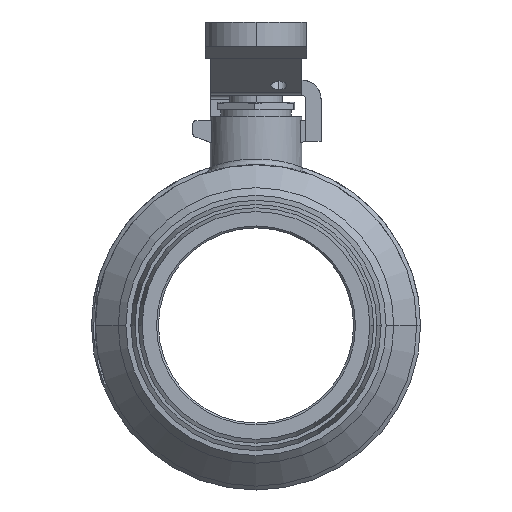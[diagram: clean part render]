
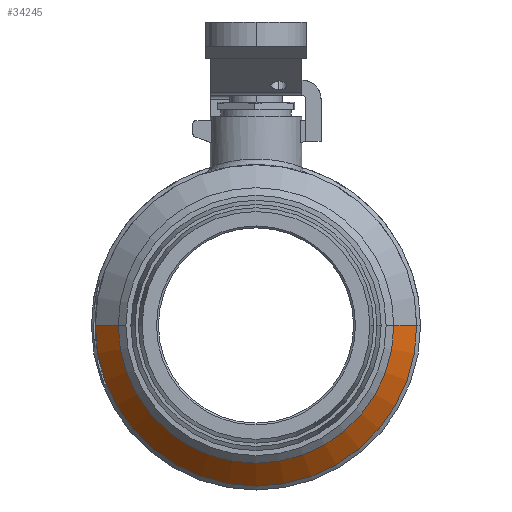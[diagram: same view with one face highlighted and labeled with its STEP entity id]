
A CAD part, left-side view. The second image highlights one B-rep face of the part: STEP entity #34245.
In plain terms, the highlighted conical face has half-angle 45 degrees and reference radius 42 mm.
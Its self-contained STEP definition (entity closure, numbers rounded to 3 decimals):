
#5087 = CYLINDRICAL_SURFACE('',#5088,42.);
#5088 = AXIS2_PLACEMENT_3D('',#5089,#5090,#5091);
#5089 = CARTESIAN_POINT('',(-107.5,0.,0.));
#5090 = DIRECTION('',(-1.,0.,0.));
#5091 = DIRECTION('',(-0.,-1.,0.));
#5146 = VERTEX_POINT('',#5147);
#5147 = CARTESIAN_POINT('',(-26.5,-36.,0.));
#5148 = VERTEX_POINT('',#5149);
#5149 = CARTESIAN_POINT('',(-26.5,36.,
    0.));
#5157 = CONICAL_SURFACE('',#5158,42.,0.785);
#5158 = AXIS2_PLACEMENT_3D('',#5159,#5160,#5161);
#5159 = CARTESIAN_POINT('',(-20.5,0.,0.));
#5160 = DIRECTION('',(1.,0.,0.));
#5161 = DIRECTION('',(-0.,1.,0.));
#5181 = EDGE_CURVE('',#5146,#5182,#5184,.T.);
#5182 = VERTEX_POINT('',#5183);
#5183 = CARTESIAN_POINT('',(-20.5,-42.,0.));
#5184 = SURFACE_CURVE('',#5185,(#5189,#5196),.PCURVE_S1.);
#5185 = LINE('',#5186,#5187);
#5186 = CARTESIAN_POINT('',(-20.5,-42.,0.));
#5187 = VECTOR('',#5188,1.);
#5188 = DIRECTION('',(0.707,-0.707,0.
    ));
#5189 = PCURVE('',#5157,#5190);
#5190 = DEFINITIONAL_REPRESENTATION('',(#5191),#5195);
#5191 = LINE('',#5192,#5193);
#5192 = CARTESIAN_POINT('',(3.142,0.));
#5193 = VECTOR('',#5194,1.);
#5194 = DIRECTION('',(0.,1.));
#5195 = ( GEOMETRIC_REPRESENTATION_CONTEXT(2) 
PARAMETRIC_REPRESENTATION_CONTEXT() REPRESENTATION_CONTEXT('2D SPACE',''
  ) );
#5196 = PCURVE('',#5197,#5202);
#5197 = CONICAL_SURFACE('',#5198,42.,0.785);
#5198 = AXIS2_PLACEMENT_3D('',#5199,#5200,#5201);
#5199 = CARTESIAN_POINT('',(-20.5,0.,0.));
#5200 = DIRECTION('',(1.,0.,0.));
#5201 = DIRECTION('',(-0.,1.,0.));
#5202 = DEFINITIONAL_REPRESENTATION('',(#5203),#5207);
#5203 = LINE('',#5204,#5205);
#5204 = CARTESIAN_POINT('',(3.142,0.));
#5205 = VECTOR('',#5206,1.);
#5206 = DIRECTION('',(0.,1.));
#5207 = ( GEOMETRIC_REPRESENTATION_CONTEXT(2) 
PARAMETRIC_REPRESENTATION_CONTEXT() REPRESENTATION_CONTEXT('2D SPACE',''
  ) );
#5210 = VERTEX_POINT('',#5211);
#5211 = CARTESIAN_POINT('',(-20.5,42.,
    0.));
#5233 = EDGE_CURVE('',#5148,#5210,#5234,.T.);
#5234 = SURFACE_CURVE('',#5235,(#5239,#5246),.PCURVE_S1.);
#5235 = LINE('',#5236,#5237);
#5236 = CARTESIAN_POINT('',(-20.5,42.,
    0.));
#5237 = VECTOR('',#5238,1.);
#5238 = DIRECTION('',(0.707,0.707,0.)
  );
#5239 = PCURVE('',#5157,#5240);
#5240 = DEFINITIONAL_REPRESENTATION('',(#5241),#5245);
#5241 = LINE('',#5242,#5243);
#5242 = CARTESIAN_POINT('',(0.,0.));
#5243 = VECTOR('',#5244,1.);
#5244 = DIRECTION('',(0.,1.));
#5245 = ( GEOMETRIC_REPRESENTATION_CONTEXT(2) 
PARAMETRIC_REPRESENTATION_CONTEXT() REPRESENTATION_CONTEXT('2D SPACE',''
  ) );
#5246 = PCURVE('',#5197,#5247);
#5247 = DEFINITIONAL_REPRESENTATION('',(#5248),#5252);
#5248 = LINE('',#5249,#5250);
#5249 = CARTESIAN_POINT('',(6.283,0.));
#5250 = VECTOR('',#5251,1.);
#5251 = DIRECTION('',(0.,1.));
#5252 = ( GEOMETRIC_REPRESENTATION_CONTEXT(2) 
PARAMETRIC_REPRESENTATION_CONTEXT() REPRESENTATION_CONTEXT('2D SPACE',''
  ) );
#5274 = CYLINDRICAL_SURFACE('',#5275,36.);
#5275 = AXIS2_PLACEMENT_3D('',#5276,#5277,#5278);
#5276 = CARTESIAN_POINT('',(-107.5,0.,0.));
#5277 = DIRECTION('',(-1.,0.,0.));
#5278 = DIRECTION('',(-0.,-1.,0.));
#20768 = EDGE_CURVE('',#5210,#5182,#20769,.T.);
#20769 = SURFACE_CURVE('',#20770,(#20775,#20782),.PCURVE_S1.);
#20770 = CIRCLE('',#20771,42.);
#20771 = AXIS2_PLACEMENT_3D('',#20772,#20773,#20774);
#20772 = CARTESIAN_POINT('',(-20.5,0.,0.));
#20773 = DIRECTION('',(-1.,0.,0.));
#20774 = DIRECTION('',(-0.,-1.,0.));
#20775 = PCURVE('',#5087,#20776);
#20776 = DEFINITIONAL_REPRESENTATION('',(#20777),#20781);
#20777 = LINE('',#20778,#20779);
#20778 = CARTESIAN_POINT('',(0.,-87.));
#20779 = VECTOR('',#20780,1.);
#20780 = DIRECTION('',(1.,0.));
#20781 = ( GEOMETRIC_REPRESENTATION_CONTEXT(2) 
PARAMETRIC_REPRESENTATION_CONTEXT() REPRESENTATION_CONTEXT('2D SPACE',''
  ) );
#20782 = PCURVE('',#5197,#20783);
#20783 = DEFINITIONAL_REPRESENTATION('',(#20784),#20788);
#20784 = LINE('',#20785,#20786);
#20785 = CARTESIAN_POINT('',(9.425,0.));
#20786 = VECTOR('',#20787,1.);
#20787 = DIRECTION('',(-1.,0.));
#20788 = ( GEOMETRIC_REPRESENTATION_CONTEXT(2) 
PARAMETRIC_REPRESENTATION_CONTEXT() REPRESENTATION_CONTEXT('2D SPACE',''
  ) );
#34222 = EDGE_CURVE('',#5148,#5146,#34223,.T.);
#34223 = SURFACE_CURVE('',#34224,(#34229,#34236),.PCURVE_S1.);
#34224 = CIRCLE('',#34225,36.);
#34225 = AXIS2_PLACEMENT_3D('',#34226,#34227,#34228);
#34226 = CARTESIAN_POINT('',(-26.5,0.,0.));
#34227 = DIRECTION('',(-1.,0.,0.));
#34228 = DIRECTION('',(-0.,-1.,0.));
#34229 = PCURVE('',#5274,#34230);
#34230 = DEFINITIONAL_REPRESENTATION('',(#34231),#34235);
#34231 = LINE('',#34232,#34233);
#34232 = CARTESIAN_POINT('',(0.,-81.));
#34233 = VECTOR('',#34234,1.);
#34234 = DIRECTION('',(1.,0.));
#34235 = ( GEOMETRIC_REPRESENTATION_CONTEXT(2) 
PARAMETRIC_REPRESENTATION_CONTEXT() REPRESENTATION_CONTEXT('2D SPACE',''
  ) );
#34236 = PCURVE('',#5197,#34237);
#34237 = DEFINITIONAL_REPRESENTATION('',(#34238),#34242);
#34238 = LINE('',#34239,#34240);
#34239 = CARTESIAN_POINT('',(9.425,-6.));
#34240 = VECTOR('',#34241,1.);
#34241 = DIRECTION('',(-1.,0.));
#34242 = ( GEOMETRIC_REPRESENTATION_CONTEXT(2) 
PARAMETRIC_REPRESENTATION_CONTEXT() REPRESENTATION_CONTEXT('2D SPACE',''
  ) );
#34245 = ADVANCED_FACE('',(#34246),#5197,.T.);
#34246 = FACE_BOUND('',#34247,.T.);
#34247 = EDGE_LOOP('',(#34248,#34249,#34250,#34251));
#34248 = ORIENTED_EDGE('',*,*,#5181,.F.);
#34249 = ORIENTED_EDGE('',*,*,#34222,.F.);
#34250 = ORIENTED_EDGE('',*,*,#5233,.T.);
#34251 = ORIENTED_EDGE('',*,*,#20768,.T.);
